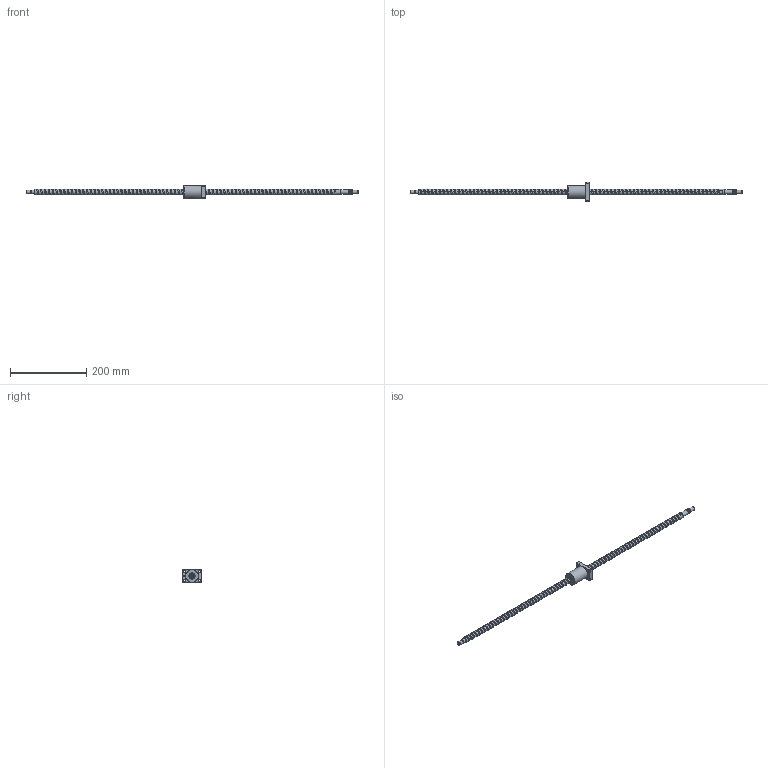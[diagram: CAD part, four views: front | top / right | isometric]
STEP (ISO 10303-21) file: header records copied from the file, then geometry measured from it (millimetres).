
FILE_DESCRIPTION (( 'STEP AP203' ), '1' );
FILE_NAME ('XSVR01510B1DGC5-871-P1.step', '2024-06-03T05:10:54', ( '' ), ( '' ), 'SwSTEP 2.0', 'SolidWorks 2022', '' );
FILE_SCHEMA (( 'CONFIG_CONTROL_DESIGN' ));
Length unit declared in the file: millimetre
Products named in the file (1): XSVR01510B1DGC5-871-P1
Bounding box: 871 x 50 x 34 mm (x, y, z)
Volume: 181513 mm3; surface area: 57662.7 mm2
Topology: 2 solids, 2 shells, 209 faces, 575 edges, 376 vertices
Faces by surface type: cylinder 132, plane 43, cone 15, bspline 10, torus 9
Full cylindrical faces by diameter (mm): 4 x1, 4.2 x15, 5 x6, 5.5 x4, 9.5 x4, 9.6 x1, 10 x3, 12 x9, 15 x79, 16.7 x1, 34 x1
Entity records: 22616 total; most frequent: CARTESIAN_POINT 20492, ORIENTED_EDGE 402, DIRECTION 391, EDGE_CURVE 201, AXIS2_PLACEMENT_3D 168, EDGE_LOOP 153, VERTEX_POINT 146, FACE_OUTER_BOUND 120
